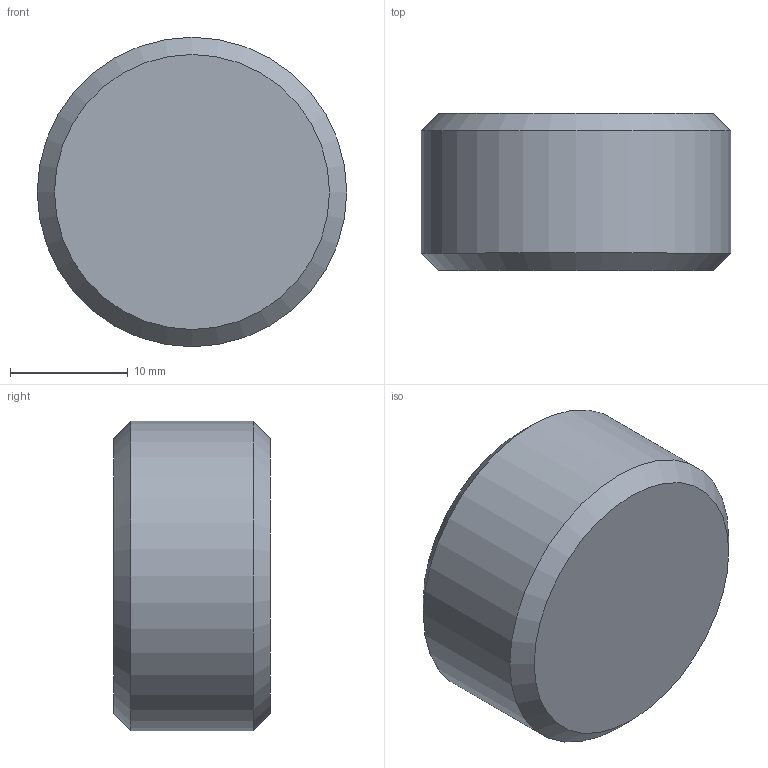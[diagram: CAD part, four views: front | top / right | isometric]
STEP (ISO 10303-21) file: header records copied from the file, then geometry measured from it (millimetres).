
FILE_DESCRIPTION(/* description */ (''),/* implementation_level */ '2;1');
FILE_NAME(/* name */ 'C:/Users/drich/Desktop/SF-34 v2.step',/* time_stamp */ '2020-01-08T20:59:43-06:00',/* author */ (''),/* organization */ (''),/* preprocessor_version */ 'ST-DEVELOPER v18',/* originating_system */ 'Autodesk Translation Framework v8.12.0.6',/* authorisation */ '');
FILE_SCHEMA (('AUTOMOTIVE_DESIGN { 1 0 10303 214 3 1 1 }'));
Length unit declared in the file: inch
Products named in the file (1): SF-34
Bounding box: 26.3 x 13.34 x 26.3 mm (x, y, z)
Volume: 5512.5 mm3; surface area: 2446.3 mm2
Topology: 1 solids, 1 shells, 13 faces, 35 edges, 25 vertices
Faces by surface type: plane 9, cone 3, cylinder 1
Full cylindrical faces by diameter (mm): 26.299 x1
Entity records: 439 total; most frequent: CARTESIAN_POINT 98, ORIENTED_EDGE 70, DIRECTION 58, EDGE_CURVE 35, VERTEX_POINT 25, AXIS2_PLACEMENT_3D 21, LINE 16, VECTOR 16
